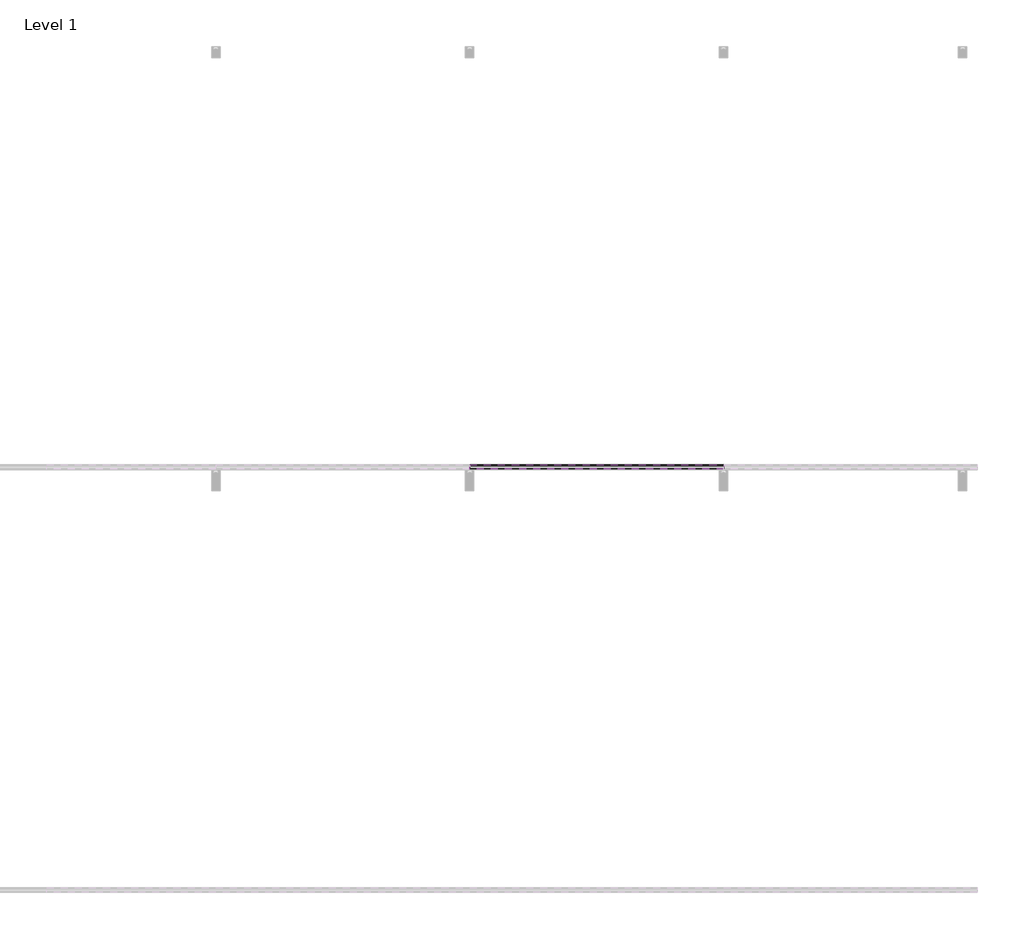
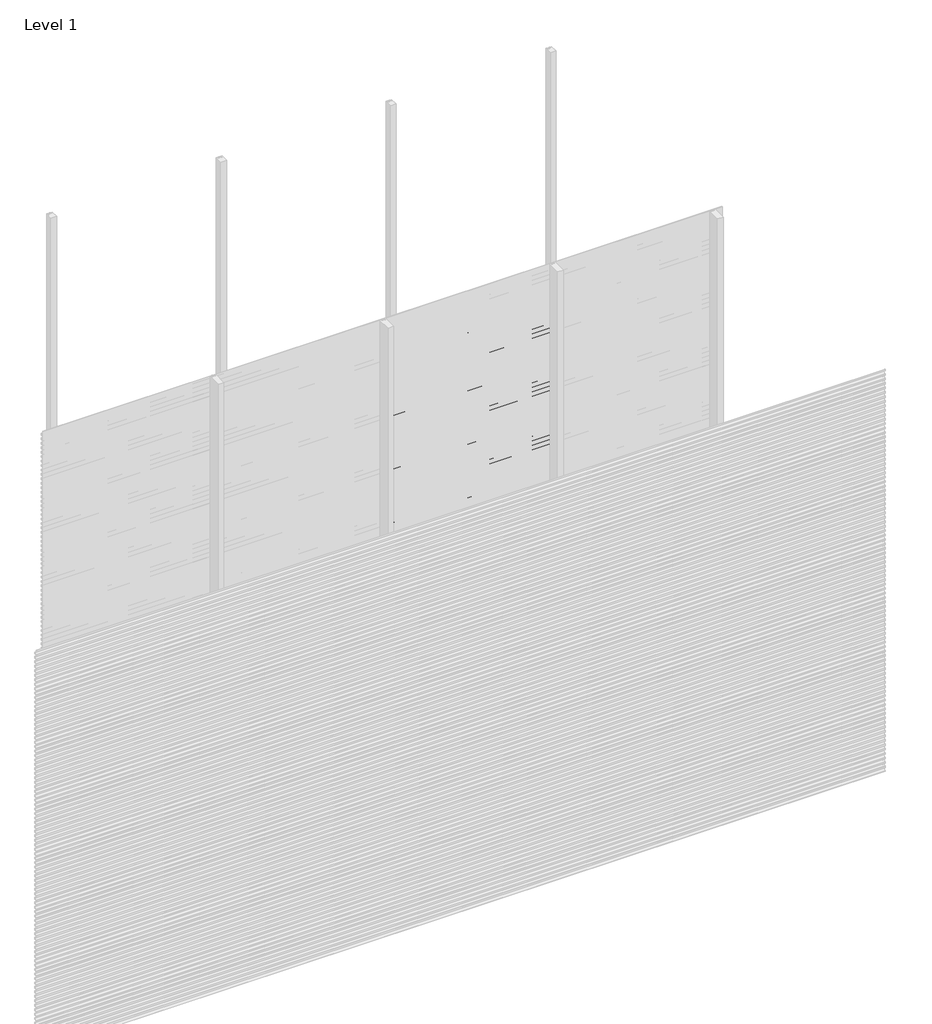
# One storey, part 31 of 77: 72 proxies.
"""IFC4 building model written with IfcOpenShell, lengths in millimetres."""

import ifcopenshell
import ifcopenshell.guid

model = None  # the IFC model being written
_history = None  # IfcOwnerHistory: only IFC2X3 demands one
_inside = {}  # id of a spatial element -> (the spatial element, [elements in it])
_under = {}  # id of a project, library or spatial element -> (it, [spatial elements below it])
_declared = {}  # id of a project -> (the project, [libraries it declares])
_typed = {}  # id of a type object -> (the type object, [elements of that type])
_made_of = {}  # id of a material, layer set ... -> (it, [elements and type objects made of it])


def new_model(schema):
    """Start an empty IFC model of exactly this schema.

    Asked for "IFC4X3", IfcOpenShell would pick the latest addendum, in which some entities
    have other attributes; the version numbers below select the first issue.
    IFC2X3 requires an IfcOwnerHistory on every rooted entity: one is made here for all.
    """
    global model, _history
    if schema == "IFC4X3":
        model = ifcopenshell.file(schema_version=(4, 3, 0, 0))
    else:
        model = ifcopenshell.file(schema=schema)
    _inside.clear()
    _under.clear()
    _declared.clear()
    _typed.clear()
    _made_of.clear()
    _history = None
    if model.schema == "IFC2X3":
        org = make("IfcOrganization", Name="unknown")
        user = make(
            "IfcPersonAndOrganization",
            ThePerson=make("IfcPerson", FamilyName="unknown"),
            TheOrganization=org,
        )
        app = make(
            "IfcApplication",
            ApplicationDeveloper=org,
            Version="unknown",
            ApplicationFullName="unknown",
            ApplicationIdentifier="unknown",
        )
        _history = make(
            "IfcOwnerHistory",
            OwningUser=user,
            OwningApplication=app,
            ChangeAction="ADDED",
            CreationDate=0,
        )
    return model


def make(cls, **values):
    """One entity of the class cls with the attributes given. An attribute that is None is left unset."""
    return model.create_entity(
        cls, **{name: value for name, value in values.items() if value is not None}
    )


def rooted(cls, **values):
    """An entity with a GlobalId (a new one), such as an element, a storey or a relation."""
    return make(cls, GlobalId=ifcopenshell.guid.new(), OwnerHistory=_history, **values)


def si_unit(unit_type, name, prefix=None):
    """IfcSIUnit, for example si_unit("LENGTHUNIT", "METRE", prefix="MILLI")."""
    return make("IfcSIUnit", UnitType=unit_type, Prefix=prefix, Name=name)


def assignment(units):
    """IfcUnitAssignment: the units of a project."""
    return None if units is None else make("IfcUnitAssignment", Units=units)


def point(xyz):
    """IfcCartesianPoint."""
    return None if xyz is None else make("IfcCartesianPoint", Coordinates=xyz)


def direction(xyz):
    """IfcDirection."""
    return None if xyz is None else make("IfcDirection", DirectionRatios=xyz)


def frame(location, z_axis=None, x_axis=None):
    """IfcAxis2Placement3D, a coordinate frame: its origin and axes. An axis left out is left unset."""
    return make(
        "IfcAxis2Placement3D",
        Location=point(location),
        Axis=direction(z_axis),
        RefDirection=direction(x_axis),
    )


def origin():
    """The frame at (0, 0, 0) with its axes left unset."""
    return frame((0.0, 0.0, 0.0))


def place(relative_to, where):
    """IfcLocalPlacement: puts the frame where relative to a parent placement (None: the world)."""
    return make(
        "IfcLocalPlacement", PlacementRelTo=relative_to, RelativePlacement=where
    )


def context(
    kind, dimensions, precision=None, world=None, true_north=None, identifier=None
):
    """IfcGeometricRepresentationContext, for example the 3D "Model" context."""
    return make(
        "IfcGeometricRepresentationContext",
        ContextIdentifier=identifier,
        ContextType=kind,
        CoordinateSpaceDimension=dimensions,
        Precision=precision,
        WorldCoordinateSystem=world,
        TrueNorth=true_north,
    )


def project(units=None, contexts=None):
    """IfcProject with its units and contexts."""
    return rooted(
        "IfcProject",
        Name="project",
        RepresentationContexts=contexts,
        UnitsInContext=assignment(units),
    )


def spatial(cls, under=None, at=None, **own):
    """A site, building, storey or space (cls), placed at a placement, below another one or the project."""
    s = rooted(cls, ObjectPlacement=at, **own)
    if under is not None:
        _under.setdefault(under.id(), (under, []))[1].append(s)
    return s


def polyline(points):
    """IfcPolyline through the points."""
    return make("IfcPolyline", Points=[point(p) for p in points])


def outline(outer, holes=None, kind="AREA"):
    """IfcArbitraryClosedProfileDef: a profile drawn as a closed curve; with holes, ...WithVoids."""
    if holes is None:
        return make("IfcArbitraryClosedProfileDef", ProfileType=kind, OuterCurve=outer)
    return make(
        "IfcArbitraryProfileDefWithVoids",
        ProfileType=kind,
        OuterCurve=outer,
        InnerCurves=holes,
    )


def extrude(swept, where, along, depth):
    """IfcExtrudedAreaSolid: the profile swept, set in the frame where, extruded along a direction by depth."""
    return make(
        "IfcExtrudedAreaSolid",
        SweptArea=swept,
        Position=where,
        ExtrudedDirection=direction(along),
        Depth=depth,
    )


def shape(context_of_items, identifier, shape_type, items):
    """IfcShapeRepresentation: the items that make up one representation, for example the "Body"."""
    return make(
        "IfcShapeRepresentation",
        ContextOfItems=context_of_items,
        RepresentationIdentifier=identifier,
        RepresentationType=shape_type,
        Items=items,
    )


def made_of(thing, what):
    """Note that an element or type object is made of a material, layer set ...; save() writes the relation."""
    if what is not None:
        _made_of.setdefault(what.id(), (what, []))[1].append(thing)
    return thing


def element(
    cls,
    number,
    at=None,
    inside=None,
    cuts=None,
    type_object=None,
    material=None,
    context=None,
    identifier="Body",
    shape_type=None,
    held_by="IfcProductDefinitionShape",
    body=None,
    shapes=None,
    **own,
):
    """One element of the class cls, such as IfcWall. Its Tag is "e" and its number.

    at: its placement. inside: the storey or other place that contains it. cuts: it is an
    opening in that element (IfcRelVoidsElement). A single representation is given by context,
    identifier, shape_type and body (its items); several are given by shapes. held_by: the class
    of the entity that holds the representations. save() writes the other relations.
    """
    e = rooted(cls, Tag="e%d" % number, ObjectPlacement=at, **own)
    if body is not None:
        shapes = [shape(context, identifier, shape_type, body)]
    if shapes is not None:
        e.Representation = make(held_by, Representations=shapes)
    if inside is not None:
        _inside.setdefault(inside.id(), (inside, []))[1].append(e)
    if cuts is not None:
        rooted(
            "IfcRelVoidsElement", RelatingBuildingElement=cuts, RelatedOpeningElement=e
        )
    if type_object is not None:
        _typed.setdefault(type_object.id(), (type_object, []))[1].append(e)
    return made_of(e, material)


def aggregate(whole, parts):
    """IfcRelAggregates: a whole, such as a stair, and the parts it consists of."""
    return rooted("IfcRelAggregates", RelatingObject=whole, RelatedObjects=parts)


def save(model, path):
    """Write the relations noted so far, then the file.

    IfcRelAggregates (storeys below a building ...), IfcRelContainedInSpatialStructure (elements
    in a storey), IfcRelDefinesByType, IfcRelAssociatesMaterial and IfcRelDeclares: one each for
    every whole, place, type object, material and project.
    """
    for whole, parts in _under.values():
        aggregate(whole, parts)
    for where, things in _inside.values():
        rooted(
            "IfcRelContainedInSpatialStructure",
            RelatedElements=things,
            RelatingStructure=where,
        )
    for kind, things in _typed.values():
        rooted("IfcRelDefinesByType", RelatedObjects=things, RelatingType=kind)
    for what, things in _made_of.values():
        rooted("IfcRelAssociatesMaterial", RelatedObjects=things, RelatingMaterial=what)
    for by, libraries in _declared.values():
        rooted("IfcRelDeclares", RelatingContext=by, RelatedDefinitions=libraries)
    model.write(path)


model = new_model("IFC4")

# Units and contexts
model_context = context("Model", 3, world=origin())
ifc_project = project(units=[si_unit("LENGTHUNIT", "METRE", prefix="MILLI")], contexts=[model_context])

# Site, building, storey
site = spatial("IfcSite", under=ifc_project)
building = spatial("IfcBuilding", under=site)
storey = spatial("IfcBuildingStorey", under=building, Name="Level 1", Elevation=0.0)

# Proxies
placement = place(None, origin())
element("IfcBuildingElementProxy", 1, Name="Wall Sweeps", at=placement, inside=storey, context=model_context, shape_type="SweptSolid", body=[
    extrude(outline(polyline([(-35978.6, 2806.0359887), (-35998.0, 2817.2366691), (-35998.0, 2830.5), (-35997.0, 2830.5), (-35997.0, 2817.8191057), (-35977.6, 2806.6185105), (-35977.6, 2793.0185105), (-35978.6, 2794.5953129), (-35978.6, 2800.4032062), (-35995.9773817, 2792.3), (-35996.4, 2793.2063078), (-35978.6, 2801.5065841), (-35978.6, 2806.0359887)])), frame((3600.0, 0.0, 0.0), z_axis=(1.0, 0.0, 0.0), x_axis=(0.0, 1.0, 0.0)), (0.0, 0.0, 1.0), 1200.0),
])
element("IfcBuildingElementProxy", 2, Name="Wall Sweeps", at=placement, inside=storey, context=model_context, shape_type="SweptSolid", body=[
    extrude(outline(polyline([(-35978.6, 2772.7359887), (-35998.0, 2783.9366691), (-35998.0, 2797.2), (-35997.0, 2797.2), (-35997.0, 2784.5191057), (-35977.6, 2773.3185105), (-35977.6, 2759.7185105), (-35978.6, 2761.2953129), (-35978.6, 2767.1032062), (-35995.9773817, 2759.0), (-35996.4, 2759.9063078), (-35978.6, 2768.2065841), (-35978.6, 2772.7359887)])), frame((3600.0, 0.0, 0.0), z_axis=(1.0, 0.0, 0.0), x_axis=(0.0, 1.0, 0.0)), (0.0, 0.0, 1.0), 1200.0),
])
element("IfcBuildingElementProxy", 3, Name="Wall Sweeps", at=placement, inside=storey, context=model_context, shape_type="SweptSolid", body=[
    extrude(outline(polyline([(-35978.6, 2739.4359887), (-35998.0, 2750.6366691), (-35998.0, 2763.9), (-35997.0, 2763.9), (-35997.0, 2751.2191057), (-35977.6, 2740.0185105), (-35977.6, 2726.4185105), (-35978.6, 2727.9953129), (-35978.6, 2733.8032062), (-35995.9773817, 2725.7), (-35996.4, 2726.6063078), (-35978.6, 2734.9065841), (-35978.6, 2739.4359887)])), frame((3600.0, 0.0, 0.0), z_axis=(1.0, 0.0, 0.0), x_axis=(0.0, 1.0, 0.0)), (0.0, 0.0, 1.0), 1200.0),
])
element("IfcBuildingElementProxy", 4, Name="Wall Sweeps", at=placement, inside=storey, context=model_context, shape_type="SweptSolid", body=[
    extrude(outline(polyline([(-35978.6, 2706.1359887), (-35998.0, 2717.3366691), (-35998.0, 2730.6), (-35997.0, 2730.6), (-35997.0, 2717.9191057), (-35977.6, 2706.7185105), (-35977.6, 2693.1185105), (-35978.6, 2694.6953129), (-35978.6, 2700.5032062), (-35995.9773817, 2692.4), (-35996.4, 2693.3063078), (-35978.6, 2701.6065841), (-35978.6, 2706.1359887)])), frame((3600.0, 0.0, 0.0), z_axis=(1.0, 0.0, 0.0), x_axis=(0.0, 1.0, 0.0)), (0.0, 0.0, 1.0), 1200.0),
])
element("IfcBuildingElementProxy", 5, Name="Wall Sweeps", at=placement, inside=storey, context=model_context, shape_type="SweptSolid", body=[
    extrude(outline(polyline([(-35978.6, 2672.8359887), (-35998.0, 2684.0366691), (-35998.0, 2697.3), (-35997.0, 2697.3), (-35997.0, 2684.6191057), (-35977.6, 2673.4185105), (-35977.6, 2659.8185105), (-35978.6, 2661.3953129), (-35978.6, 2667.2032062), (-35995.9773817, 2659.1), (-35996.4, 2660.0063078), (-35978.6, 2668.3065841), (-35978.6, 2672.8359887)])), frame((3600.0, 0.0, 0.0), z_axis=(1.0, 0.0, 0.0), x_axis=(0.0, 1.0, 0.0)), (0.0, 0.0, 1.0), 1200.0),
])
element("IfcBuildingElementProxy", 6, Name="Wall Sweeps", at=placement, inside=storey, context=model_context, shape_type="SweptSolid", body=[
    extrude(outline(polyline([(-35978.6, 2639.5359887), (-35998.0, 2650.7366691), (-35998.0, 2664.0), (-35997.0, 2664.0), (-35997.0, 2651.3191057), (-35977.6, 2640.1185105), (-35977.6, 2626.5185105), (-35978.6, 2628.0953129), (-35978.6, 2633.9032062), (-35995.9773817, 2625.8), (-35996.4, 2626.7063078), (-35978.6, 2635.0065841), (-35978.6, 2639.5359887)])), frame((3600.0, 0.0, 0.0), z_axis=(1.0, 0.0, 0.0), x_axis=(0.0, 1.0, 0.0)), (0.0, 0.0, 1.0), 1200.0),
])
element("IfcBuildingElementProxy", 7, Name="Wall Sweeps", at=placement, inside=storey, context=model_context, shape_type="SweptSolid", body=[
    extrude(outline(polyline([(-35978.6, 2606.2359887), (-35998.0, 2617.4366691), (-35998.0, 2630.7), (-35997.0, 2630.7), (-35997.0, 2618.0191057), (-35977.6, 2606.8185105), (-35977.6, 2593.2185105), (-35978.6, 2594.7953129), (-35978.6, 2600.6032062), (-35995.9773817, 2592.5), (-35996.4, 2593.4063078), (-35978.6, 2601.7065841), (-35978.6, 2606.2359887)])), frame((3600.0, 0.0, 0.0), z_axis=(1.0, 0.0, 0.0), x_axis=(0.0, 1.0, 0.0)), (0.0, 0.0, 1.0), 1200.0),
])
element("IfcBuildingElementProxy", 8, Name="Wall Sweeps", at=placement, inside=storey, context=model_context, shape_type="SweptSolid", body=[
    extrude(outline(polyline([(-35978.6, 2572.9359887), (-35998.0, 2584.1366691), (-35998.0, 2597.4), (-35997.0, 2597.4), (-35997.0, 2584.7191057), (-35977.6, 2573.5185105), (-35977.6, 2559.9185105), (-35978.6, 2561.4953129), (-35978.6, 2567.3032062), (-35995.9773817, 2559.2), (-35996.4, 2560.1063078), (-35978.6, 2568.4065841), (-35978.6, 2572.9359887)])), frame((3600.0, 0.0, 0.0), z_axis=(1.0, 0.0, 0.0), x_axis=(0.0, 1.0, 0.0)), (0.0, 0.0, 1.0), 1200.0),
])
element("IfcBuildingElementProxy", 9, Name="Wall Sweeps", at=placement, inside=storey, context=model_context, shape_type="SweptSolid", body=[
    extrude(outline(polyline([(-35978.6, 2539.6359887), (-35998.0, 2550.8366691), (-35998.0, 2564.1), (-35997.0, 2564.1), (-35997.0, 2551.4191057), (-35977.6, 2540.2185105), (-35977.6, 2526.6185105), (-35978.6, 2528.1953129), (-35978.6, 2534.0032062), (-35995.9773817, 2525.9), (-35996.4, 2526.8063078), (-35978.6, 2535.1065841), (-35978.6, 2539.6359887)])), frame((3600.0, 0.0, 0.0), z_axis=(1.0, 0.0, 0.0), x_axis=(0.0, 1.0, 0.0)), (0.0, 0.0, 1.0), 1200.0),
])
element("IfcBuildingElementProxy", 10, Name="Wall Sweeps", at=placement, inside=storey, context=model_context, shape_type="SweptSolid", body=[
    extrude(outline(polyline([(-35978.6, 2506.3359887), (-35998.0, 2517.5366691), (-35998.0, 2530.8), (-35997.0, 2530.8), (-35997.0, 2518.1191057), (-35977.6, 2506.9185105), (-35977.6, 2493.3185105), (-35978.6, 2494.8953129), (-35978.6, 2500.7032062), (-35995.9773817, 2492.6), (-35996.4, 2493.5063078), (-35978.6, 2501.8065841), (-35978.6, 2506.3359887)])), frame((3600.0, 0.0, 0.0), z_axis=(1.0, 0.0, 0.0), x_axis=(0.0, 1.0, 0.0)), (0.0, 0.0, 1.0), 1200.0),
])
element("IfcBuildingElementProxy", 11, Name="Wall Sweeps", at=placement, inside=storey, context=model_context, shape_type="SweptSolid", body=[
    extrude(outline(polyline([(-35978.6, 2473.0359887), (-35998.0, 2484.2366691), (-35998.0, 2497.5), (-35997.0, 2497.5), (-35997.0, 2484.8191057), (-35977.6, 2473.6185105), (-35977.6, 2460.0185105), (-35978.6, 2461.5953129), (-35978.6, 2467.4032062), (-35995.9773817, 2459.3), (-35996.4, 2460.2063078), (-35978.6, 2468.5065841), (-35978.6, 2473.0359887)])), frame((3600.0, 0.0, 0.0), z_axis=(1.0, 0.0, 0.0), x_axis=(0.0, 1.0, 0.0)), (0.0, 0.0, 1.0), 1200.0),
])
element("IfcBuildingElementProxy", 12, Name="Wall Sweeps", at=placement, inside=storey, context=model_context, shape_type="SweptSolid", body=[
    extrude(outline(polyline([(-35978.6, 2439.7359887), (-35998.0, 2450.9366691), (-35998.0, 2464.2), (-35997.0, 2464.2), (-35997.0, 2451.5191057), (-35977.6, 2440.3185105), (-35977.6, 2426.7185105), (-35978.6, 2428.2953129), (-35978.6, 2434.1032062), (-35995.9773817, 2426.0), (-35996.4, 2426.9063078), (-35978.6, 2435.2065841), (-35978.6, 2439.7359887)])), frame((3600.0, 0.0, 0.0), z_axis=(1.0, 0.0, 0.0), x_axis=(0.0, 1.0, 0.0)), (0.0, 0.0, 1.0), 1200.0),
])
element("IfcBuildingElementProxy", 13, Name="Wall Sweeps", at=placement, inside=storey, context=model_context, shape_type="SweptSolid", body=[
    extrude(outline(polyline([(-35978.6, 2406.4359887), (-35998.0, 2417.6366691), (-35998.0, 2430.9), (-35997.0, 2430.9), (-35997.0, 2418.2191057), (-35977.6, 2407.0185105), (-35977.6, 2393.4185105), (-35978.6, 2394.9953129), (-35978.6, 2400.8032062), (-35995.9773817, 2392.7), (-35996.4, 2393.6063078), (-35978.6, 2401.9065841), (-35978.6, 2406.4359887)])), frame((3600.0, 0.0, 0.0), z_axis=(1.0, 0.0, 0.0), x_axis=(0.0, 1.0, 0.0)), (0.0, 0.0, 1.0), 1200.0),
])
element("IfcBuildingElementProxy", 14, Name="Wall Sweeps", at=placement, inside=storey, context=model_context, shape_type="SweptSolid", body=[
    extrude(outline(polyline([(-35978.6, 2373.1359887), (-35998.0, 2384.3366691), (-35998.0, 2397.6), (-35997.0, 2397.6), (-35997.0, 2384.9191057), (-35977.6, 2373.7185105), (-35977.6, 2360.1185105), (-35978.6, 2361.6953129), (-35978.6, 2367.5032062), (-35995.9773817, 2359.4), (-35996.4, 2360.3063078), (-35978.6, 2368.6065841), (-35978.6, 2373.1359887)])), frame((3600.0, 0.0, 0.0), z_axis=(1.0, 0.0, 0.0), x_axis=(0.0, 1.0, 0.0)), (0.0, 0.0, 1.0), 1200.0),
])
element("IfcBuildingElementProxy", 15, Name="Wall Sweeps", at=placement, inside=storey, context=model_context, shape_type="SweptSolid", body=[
    extrude(outline(polyline([(-35978.6, 2339.8359887), (-35998.0, 2351.0366691), (-35998.0, 2364.3), (-35997.0, 2364.3), (-35997.0, 2351.6191057), (-35977.6, 2340.4185105), (-35977.6, 2326.8185105), (-35978.6, 2328.3953129), (-35978.6, 2334.2032062), (-35995.9773817, 2326.1), (-35996.4, 2327.0063078), (-35978.6, 2335.3065841), (-35978.6, 2339.8359887)])), frame((3600.0, 0.0, 0.0), z_axis=(1.0, 0.0, 0.0), x_axis=(0.0, 1.0, 0.0)), (0.0, 0.0, 1.0), 1200.0),
])
element("IfcBuildingElementProxy", 16, Name="Wall Sweeps", at=placement, inside=storey, context=model_context, shape_type="SweptSolid", body=[
    extrude(outline(polyline([(-35978.6, 2306.5359887), (-35998.0, 2317.7366691), (-35998.0, 2331.0), (-35997.0, 2331.0), (-35997.0, 2318.3191057), (-35977.6, 2307.1185105), (-35977.6, 2293.5185105), (-35978.6, 2295.0953129), (-35978.6, 2300.9032062), (-35995.9773817, 2292.8), (-35996.4, 2293.7063078), (-35978.6, 2302.0065841), (-35978.6, 2306.5359887)])), frame((3600.0, 0.0, 0.0), z_axis=(1.0, 0.0, 0.0), x_axis=(0.0, 1.0, 0.0)), (0.0, 0.0, 1.0), 1200.0),
])
element("IfcBuildingElementProxy", 17, Name="Wall Sweeps", at=placement, inside=storey, context=model_context, shape_type="SweptSolid", body=[
    extrude(outline(polyline([(-35978.6, 2273.2359887), (-35998.0, 2284.4366691), (-35998.0, 2297.7), (-35997.0, 2297.7), (-35997.0, 2285.0191057), (-35977.6, 2273.8185105), (-35977.6, 2260.2185105), (-35978.6, 2261.7953129), (-35978.6, 2267.6032062), (-35995.9773817, 2259.5), (-35996.4, 2260.4063078), (-35978.6, 2268.7065841), (-35978.6, 2273.2359887)])), frame((3600.0, 0.0, 0.0), z_axis=(1.0, 0.0, 0.0), x_axis=(0.0, 1.0, 0.0)), (0.0, 0.0, 1.0), 1200.0),
])
element("IfcBuildingElementProxy", 18, Name="Wall Sweeps", at=placement, inside=storey, context=model_context, shape_type="SweptSolid", body=[
    extrude(outline(polyline([(-35978.6, 2239.9359887), (-35998.0, 2251.1366691), (-35998.0, 2264.4), (-35997.0, 2264.4), (-35997.0, 2251.7191057), (-35977.6, 2240.5185105), (-35977.6, 2226.9185105), (-35978.6, 2228.4953129), (-35978.6, 2234.3032062), (-35995.9773817, 2226.2), (-35996.4, 2227.1063078), (-35978.6, 2235.4065841), (-35978.6, 2239.9359887)])), frame((3600.0, 0.0, 0.0), z_axis=(1.0, 0.0, 0.0), x_axis=(0.0, 1.0, 0.0)), (0.0, 0.0, 1.0), 1200.0),
])
element("IfcBuildingElementProxy", 19, Name="Wall Sweeps", at=placement, inside=storey, context=model_context, shape_type="SweptSolid", body=[
    extrude(outline(polyline([(-35978.6, 2206.6359887), (-35998.0, 2217.8366691), (-35998.0, 2231.1), (-35997.0, 2231.1), (-35997.0, 2218.4191057), (-35977.6, 2207.2185105), (-35977.6, 2193.6185105), (-35978.6, 2195.1953129), (-35978.6, 2201.0032062), (-35995.9773817, 2192.9), (-35996.4, 2193.8063078), (-35978.6, 2202.1065841), (-35978.6, 2206.6359887)])), frame((3600.0, 0.0, 0.0), z_axis=(1.0, 0.0, 0.0), x_axis=(0.0, 1.0, 0.0)), (0.0, 0.0, 1.0), 1200.0),
])
element("IfcBuildingElementProxy", 20, Name="Wall Sweeps", at=placement, inside=storey, context=model_context, shape_type="SweptSolid", body=[
    extrude(outline(polyline([(-35978.6, 2173.3359887), (-35998.0, 2184.5366691), (-35998.0, 2197.8), (-35997.0, 2197.8), (-35997.0, 2185.1191057), (-35977.6, 2173.9185105), (-35977.6, 2160.3185105), (-35978.6, 2161.8953129), (-35978.6, 2167.7032062), (-35995.9773817, 2159.6), (-35996.4, 2160.5063078), (-35978.6, 2168.8065841), (-35978.6, 2173.3359887)])), frame((3600.0, 0.0, 0.0), z_axis=(1.0, 0.0, 0.0), x_axis=(0.0, 1.0, 0.0)), (0.0, 0.0, 1.0), 1200.0),
])
element("IfcBuildingElementProxy", 21, Name="Wall Sweeps", at=placement, inside=storey, context=model_context, shape_type="SweptSolid", body=[
    extrude(outline(polyline([(-35978.6, 2140.0359887), (-35998.0, 2151.2366691), (-35998.0, 2164.5), (-35997.0, 2164.5), (-35997.0, 2151.8191057), (-35977.6, 2140.6185105), (-35977.6, 2127.0185105), (-35978.6, 2128.5953129), (-35978.6, 2134.4032062), (-35995.9773817, 2126.3), (-35996.4, 2127.2063078), (-35978.6, 2135.5065841), (-35978.6, 2140.0359887)])), frame((3600.0, 0.0, 0.0), z_axis=(1.0, 0.0, 0.0), x_axis=(0.0, 1.0, 0.0)), (0.0, 0.0, 1.0), 1200.0),
])
element("IfcBuildingElementProxy", 22, Name="Wall Sweeps", at=placement, inside=storey, context=model_context, shape_type="SweptSolid", body=[
    extrude(outline(polyline([(-35978.6, 2106.7359887), (-35998.0, 2117.9366691), (-35998.0, 2131.2), (-35997.0, 2131.2), (-35997.0, 2118.5191057), (-35977.6, 2107.3185105), (-35977.6, 2093.7185105), (-35978.6, 2095.2953129), (-35978.6, 2101.1032062), (-35995.9773817, 2093.0), (-35996.4, 2093.9063078), (-35978.6, 2102.2065841), (-35978.6, 2106.7359887)])), frame((3600.0, 0.0, 0.0), z_axis=(1.0, 0.0, 0.0), x_axis=(0.0, 1.0, 0.0)), (0.0, 0.0, 1.0), 1200.0),
])
element("IfcBuildingElementProxy", 23, Name="Wall Sweeps", at=placement, inside=storey, context=model_context, shape_type="SweptSolid", body=[
    extrude(outline(polyline([(-35978.6, 2073.4359887), (-35998.0, 2084.6366691), (-35998.0, 2097.9), (-35997.0, 2097.9), (-35997.0, 2085.2191057), (-35977.6, 2074.0185105), (-35977.6, 2060.4185105), (-35978.6, 2061.9953129), (-35978.6, 2067.8032062), (-35995.9773817, 2059.7), (-35996.4, 2060.6063078), (-35978.6, 2068.9065841), (-35978.6, 2073.4359887)])), frame((3600.0, 0.0, 0.0), z_axis=(1.0, 0.0, 0.0), x_axis=(0.0, 1.0, 0.0)), (0.0, 0.0, 1.0), 1200.0),
])
element("IfcBuildingElementProxy", 24, Name="Wall Sweeps", at=placement, inside=storey, context=model_context, shape_type="SweptSolid", body=[
    extrude(outline(polyline([(-35978.6, 2040.1359887), (-35998.0, 2051.3366691), (-35998.0, 2064.6), (-35997.0, 2064.6), (-35997.0, 2051.9191057), (-35977.6, 2040.7185105), (-35977.6, 2027.1185105), (-35978.6, 2028.6953129), (-35978.6, 2034.5032062), (-35995.9773817, 2026.4), (-35996.4, 2027.3063078), (-35978.6, 2035.6065841), (-35978.6, 2040.1359887)])), frame((3600.0, 0.0, 0.0), z_axis=(1.0, 0.0, 0.0), x_axis=(0.0, 1.0, 0.0)), (0.0, 0.0, 1.0), 1200.0),
])
element("IfcBuildingElementProxy", 25, Name="Wall Sweeps", at=placement, inside=storey, context=model_context, shape_type="SweptSolid", body=[
    extrude(outline(polyline([(-35978.6, 2006.8359887), (-35998.0, 2018.0366691), (-35998.0, 2031.3), (-35997.0, 2031.3), (-35997.0, 2018.6191057), (-35977.6, 2007.4185105), (-35977.6, 1993.8185105), (-35978.6, 1995.3953129), (-35978.6, 2001.2032062), (-35995.9773817, 1993.1), (-35996.4, 1994.0063078), (-35978.6, 2002.3065841), (-35978.6, 2006.8359887)])), frame((3600.0, 0.0, 0.0), z_axis=(1.0, 0.0, 0.0), x_axis=(0.0, 1.0, 0.0)), (0.0, 0.0, 1.0), 1200.0),
])
element("IfcBuildingElementProxy", 26, Name="Wall Sweeps", at=placement, inside=storey, context=model_context, shape_type="SweptSolid", body=[
    extrude(outline(polyline([(-35978.6, 1973.5359887), (-35998.0, 1984.7366691), (-35998.0, 1998.0), (-35997.0, 1998.0), (-35997.0, 1985.3191057), (-35977.6, 1974.1185105), (-35977.6, 1960.5185105), (-35978.6, 1962.0953129), (-35978.6, 1967.9032062), (-35995.9773817, 1959.8), (-35996.4, 1960.7063078), (-35978.6, 1969.0065841), (-35978.6, 1973.5359887)])), frame((3600.0, 0.0, 0.0), z_axis=(1.0, 0.0, 0.0), x_axis=(0.0, 1.0, 0.0)), (0.0, 0.0, 1.0), 1200.0),
])
element("IfcBuildingElementProxy", 27, Name="Wall Sweeps", at=placement, inside=storey, context=model_context, shape_type="SweptSolid", body=[
    extrude(outline(polyline([(-35978.6, 1940.2359887), (-35998.0, 1951.4366691), (-35998.0, 1964.7), (-35997.0, 1964.7), (-35997.0, 1952.0191057), (-35977.6, 1940.8185105), (-35977.6, 1927.2185105), (-35978.6, 1928.7953129), (-35978.6, 1934.6032062), (-35995.9773817, 1926.5), (-35996.4, 1927.4063078), (-35978.6, 1935.7065841), (-35978.6, 1940.2359887)])), frame((3600.0, 0.0, 0.0), z_axis=(1.0, 0.0, 0.0), x_axis=(0.0, 1.0, 0.0)), (0.0, 0.0, 1.0), 1200.0),
])
element("IfcBuildingElementProxy", 28, Name="Wall Sweeps", at=placement, inside=storey, context=model_context, shape_type="SweptSolid", body=[
    extrude(outline(polyline([(-35978.6, 1906.9359887), (-35998.0, 1918.1366691), (-35998.0, 1931.4), (-35997.0, 1931.4), (-35997.0, 1918.7191057), (-35977.6, 1907.5185105), (-35977.6, 1893.9185105), (-35978.6, 1895.4953129), (-35978.6, 1901.3032062), (-35995.9773817, 1893.2), (-35996.4, 1894.1063078), (-35978.6, 1902.4065841), (-35978.6, 1906.9359887)])), frame((3600.0, 0.0, 0.0), z_axis=(1.0, 0.0, 0.0), x_axis=(0.0, 1.0, 0.0)), (0.0, 0.0, 1.0), 1200.0),
])
element("IfcBuildingElementProxy", 29, Name="Wall Sweeps", at=placement, inside=storey, context=model_context, shape_type="SweptSolid", body=[
    extrude(outline(polyline([(-35978.6, 1873.6359887), (-35998.0, 1884.8366691), (-35998.0, 1898.1), (-35997.0, 1898.1), (-35997.0, 1885.4191057), (-35977.6, 1874.2185105), (-35977.6, 1860.6185105), (-35978.6, 1862.1953129), (-35978.6, 1868.0032062), (-35995.9773817, 1859.9), (-35996.4, 1860.8063078), (-35978.6, 1869.1065841), (-35978.6, 1873.6359887)])), frame((3600.0, 0.0, 0.0), z_axis=(1.0, 0.0, 0.0), x_axis=(0.0, 1.0, 0.0)), (0.0, 0.0, 1.0), 1200.0),
])
element("IfcBuildingElementProxy", 30, Name="Wall Sweeps", at=placement, inside=storey, context=model_context, shape_type="SweptSolid", body=[
    extrude(outline(polyline([(-35978.6, 1840.3359887), (-35998.0, 1851.5366691), (-35998.0, 1864.8), (-35997.0, 1864.8), (-35997.0, 1852.1191057), (-35977.6, 1840.9185105), (-35977.6, 1827.3185105), (-35978.6, 1828.8953129), (-35978.6, 1834.7032062), (-35995.9773817, 1826.6), (-35996.4, 1827.5063078), (-35978.6, 1835.8065841), (-35978.6, 1840.3359887)])), frame((3600.0, 0.0, 0.0), z_axis=(1.0, 0.0, 0.0), x_axis=(0.0, 1.0, 0.0)), (0.0, 0.0, 1.0), 1200.0),
])
element("IfcBuildingElementProxy", 31, Name="Wall Sweeps", at=placement, inside=storey, context=model_context, shape_type="SweptSolid", body=[
    extrude(outline(polyline([(-35978.6, 1807.0359887), (-35998.0, 1818.2366691), (-35998.0, 1831.5), (-35997.0, 1831.5), (-35997.0, 1818.8191057), (-35977.6, 1807.6185105), (-35977.6, 1794.0185105), (-35978.6, 1795.5953129), (-35978.6, 1801.4032062), (-35995.9773817, 1793.3), (-35996.4, 1794.2063078), (-35978.6, 1802.5065841), (-35978.6, 1807.0359887)])), frame((3600.0, 0.0, 0.0), z_axis=(1.0, 0.0, 0.0), x_axis=(0.0, 1.0, 0.0)), (0.0, 0.0, 1.0), 1200.0),
])
element("IfcBuildingElementProxy", 32, Name="Wall Sweeps", at=placement, inside=storey, context=model_context, shape_type="SweptSolid", body=[
    extrude(outline(polyline([(-35978.6, 1773.7359887), (-35998.0, 1784.9366691), (-35998.0, 1798.2), (-35997.0, 1798.2), (-35997.0, 1785.5191057), (-35977.6, 1774.3185105), (-35977.6, 1760.7185105), (-35978.6, 1762.2953129), (-35978.6, 1768.1032062), (-35995.9773817, 1760.0), (-35996.4, 1760.9063078), (-35978.6, 1769.2065841), (-35978.6, 1773.7359887)])), frame((3600.0, 0.0, 0.0), z_axis=(1.0, 0.0, 0.0), x_axis=(0.0, 1.0, 0.0)), (0.0, 0.0, 1.0), 1200.0),
])
element("IfcBuildingElementProxy", 33, Name="Wall Sweeps", at=placement, inside=storey, context=model_context, shape_type="SweptSolid", body=[
    extrude(outline(polyline([(-35978.6, 1740.4359887), (-35998.0, 1751.6366691), (-35998.0, 1764.9), (-35997.0, 1764.9), (-35997.0, 1752.2191057), (-35977.6, 1741.0185105), (-35977.6, 1727.4185105), (-35978.6, 1728.9953129), (-35978.6, 1734.8032062), (-35995.9773817, 1726.7), (-35996.4, 1727.6063078), (-35978.6, 1735.9065841), (-35978.6, 1740.4359887)])), frame((3600.0, 0.0, 0.0), z_axis=(1.0, 0.0, 0.0), x_axis=(0.0, 1.0, 0.0)), (0.0, 0.0, 1.0), 1200.0),
])
element("IfcBuildingElementProxy", 34, Name="Wall Sweeps", at=placement, inside=storey, context=model_context, shape_type="SweptSolid", body=[
    extrude(outline(polyline([(-35978.6, 1707.1359887), (-35998.0, 1718.3366691), (-35998.0, 1731.6), (-35997.0, 1731.6), (-35997.0, 1718.9191057), (-35977.6, 1707.7185105), (-35977.6, 1694.1185105), (-35978.6, 1695.6953129), (-35978.6, 1701.5032062), (-35995.9773817, 1693.4), (-35996.4, 1694.3063078), (-35978.6, 1702.6065841), (-35978.6, 1707.1359887)])), frame((3600.0, 0.0, 0.0), z_axis=(1.0, 0.0, 0.0), x_axis=(0.0, 1.0, 0.0)), (0.0, 0.0, 1.0), 1200.0),
])
element("IfcBuildingElementProxy", 35, Name="Wall Sweeps", at=placement, inside=storey, context=model_context, shape_type="SweptSolid", body=[
    extrude(outline(polyline([(-35978.6, 1673.8359887), (-35998.0, 1685.0366691), (-35998.0, 1698.3), (-35997.0, 1698.3), (-35997.0, 1685.6191057), (-35977.6, 1674.4185105), (-35977.6, 1660.8185105), (-35978.6, 1662.3953129), (-35978.6, 1668.2032062), (-35995.9773817, 1660.1), (-35996.4, 1661.0063078), (-35978.6, 1669.3065841), (-35978.6, 1673.8359887)])), frame((3600.0, 0.0, 0.0), z_axis=(1.0, 0.0, 0.0), x_axis=(0.0, 1.0, 0.0)), (0.0, 0.0, 1.0), 1200.0),
])
element("IfcBuildingElementProxy", 36, Name="Wall Sweeps", at=placement, inside=storey, context=model_context, shape_type="SweptSolid", body=[
    extrude(outline(polyline([(-35978.6, 1640.5359887), (-35998.0, 1651.7366691), (-35998.0, 1665.0), (-35997.0, 1665.0), (-35997.0, 1652.3191057), (-35977.6, 1641.1185105), (-35977.6, 1627.5185105), (-35978.6, 1629.0953129), (-35978.6, 1634.9032062), (-35995.9773817, 1626.8), (-35996.4, 1627.7063078), (-35978.6, 1636.0065841), (-35978.6, 1640.5359887)])), frame((3600.0, 0.0, 0.0), z_axis=(1.0, 0.0, 0.0), x_axis=(0.0, 1.0, 0.0)), (0.0, 0.0, 1.0), 1200.0),
])
element("IfcBuildingElementProxy", 37, Name="Wall Sweeps", at=placement, inside=storey, context=model_context, shape_type="SweptSolid", body=[
    extrude(outline(polyline([(-35978.6, 1607.2359887), (-35998.0, 1618.4366691), (-35998.0, 1631.7), (-35997.0, 1631.7), (-35997.0, 1619.0191057), (-35977.6, 1607.8185105), (-35977.6, 1594.2185105), (-35978.6, 1595.7953129), (-35978.6, 1601.6032062), (-35995.9773817, 1593.5), (-35996.4, 1594.4063078), (-35978.6, 1602.7065841), (-35978.6, 1607.2359887)])), frame((3600.0, 0.0, 0.0), z_axis=(1.0, 0.0, 0.0), x_axis=(0.0, 1.0, 0.0)), (0.0, 0.0, 1.0), 1200.0),
])
element("IfcBuildingElementProxy", 38, Name="Wall Sweeps", at=placement, inside=storey, context=model_context, shape_type="SweptSolid", body=[
    extrude(outline(polyline([(-35978.6, 1573.9359887), (-35998.0, 1585.1366691), (-35998.0, 1598.4), (-35997.0, 1598.4), (-35997.0, 1585.7191057), (-35977.6, 1574.5185105), (-35977.6, 1560.9185105), (-35978.6, 1562.4953129), (-35978.6, 1568.3032062), (-35995.9773817, 1560.2), (-35996.4, 1561.1063078), (-35978.6, 1569.4065841), (-35978.6, 1573.9359887)])), frame((3600.0, 0.0, 0.0), z_axis=(1.0, 0.0, 0.0), x_axis=(0.0, 1.0, 0.0)), (0.0, 0.0, 1.0), 1200.0),
])
element("IfcBuildingElementProxy", 39, Name="Wall Sweeps", at=placement, inside=storey, context=model_context, shape_type="SweptSolid", body=[
    extrude(outline(polyline([(-35978.6, 1540.6359887), (-35998.0, 1551.8366691), (-35998.0, 1565.1), (-35997.0, 1565.1), (-35997.0, 1552.4191057), (-35977.6, 1541.2185105), (-35977.6, 1527.6185105), (-35978.6, 1529.1953129), (-35978.6, 1535.0032062), (-35995.9773817, 1526.9), (-35996.4, 1527.8063078), (-35978.6, 1536.1065841), (-35978.6, 1540.6359887)])), frame((3600.0, 0.0, 0.0), z_axis=(1.0, 0.0, 0.0), x_axis=(0.0, 1.0, 0.0)), (0.0, 0.0, 1.0), 1200.0),
])
element("IfcBuildingElementProxy", 40, Name="Wall Sweeps", at=placement, inside=storey, context=model_context, shape_type="SweptSolid", body=[
    extrude(outline(polyline([(-35978.6, 1507.3359887), (-35998.0, 1518.5366691), (-35998.0, 1531.8), (-35997.0, 1531.8), (-35997.0, 1519.1191057), (-35977.6, 1507.9185105), (-35977.6, 1494.3185105), (-35978.6, 1495.8953129), (-35978.6, 1501.7032062), (-35995.9773817, 1493.6), (-35996.4, 1494.5063078), (-35978.6, 1502.8065841), (-35978.6, 1507.3359887)])), frame((3600.0, 0.0, 0.0), z_axis=(1.0, 0.0, 0.0), x_axis=(0.0, 1.0, 0.0)), (0.0, 0.0, 1.0), 1200.0),
])
element("IfcBuildingElementProxy", 41, Name="Wall Sweeps", at=placement, inside=storey, context=model_context, shape_type="SweptSolid", body=[
    extrude(outline(polyline([(-35978.6, 1474.0359887), (-35998.0, 1485.2366691), (-35998.0, 1498.5), (-35997.0, 1498.5), (-35997.0, 1485.8191057), (-35977.6, 1474.6185105), (-35977.6, 1461.0185105), (-35978.6, 1462.5953129), (-35978.6, 1468.4032062), (-35995.9773817, 1460.3), (-35996.4, 1461.2063078), (-35978.6, 1469.5065841), (-35978.6, 1474.0359887)])), frame((3600.0, 0.0, 0.0), z_axis=(1.0, 0.0, 0.0), x_axis=(0.0, 1.0, 0.0)), (0.0, 0.0, 1.0), 1200.0),
])
element("IfcBuildingElementProxy", 42, Name="Wall Sweeps", at=placement, inside=storey, context=model_context, shape_type="SweptSolid", body=[
    extrude(outline(polyline([(-35978.6, 1440.7359887), (-35998.0, 1451.9366691), (-35998.0, 1465.2), (-35997.0, 1465.2), (-35997.0, 1452.5191057), (-35977.6, 1441.3185105), (-35977.6, 1427.7185105), (-35978.6, 1429.2953129), (-35978.6, 1435.1032062), (-35995.9773817, 1427.0), (-35996.4, 1427.9063078), (-35978.6, 1436.2065841), (-35978.6, 1440.7359887)])), frame((3600.0, 0.0, 0.0), z_axis=(1.0, 0.0, 0.0), x_axis=(0.0, 1.0, 0.0)), (0.0, 0.0, 1.0), 1200.0),
])
element("IfcBuildingElementProxy", 43, Name="Wall Sweeps", at=placement, inside=storey, context=model_context, shape_type="SweptSolid", body=[
    extrude(outline(polyline([(-35978.6, 1407.4359887), (-35998.0, 1418.6366691), (-35998.0, 1431.9), (-35997.0, 1431.9), (-35997.0, 1419.2191057), (-35977.6, 1408.0185105), (-35977.6, 1394.4185105), (-35978.6, 1395.9953129), (-35978.6, 1401.8032062), (-35995.9773817, 1393.7), (-35996.4, 1394.6063078), (-35978.6, 1402.9065841), (-35978.6, 1407.4359887)])), frame((3600.0, 0.0, 0.0), z_axis=(1.0, 0.0, 0.0), x_axis=(0.0, 1.0, 0.0)), (0.0, 0.0, 1.0), 1200.0),
])
element("IfcBuildingElementProxy", 44, Name="Wall Sweeps", at=placement, inside=storey, context=model_context, shape_type="SweptSolid", body=[
    extrude(outline(polyline([(-35978.6, 1374.1359887), (-35998.0, 1385.3366691), (-35998.0, 1398.6), (-35997.0, 1398.6), (-35997.0, 1385.9191057), (-35977.6, 1374.7185105), (-35977.6, 1361.1185105), (-35978.6, 1362.6953129), (-35978.6, 1368.5032062), (-35995.9773817, 1360.4), (-35996.4, 1361.3063078), (-35978.6, 1369.6065841), (-35978.6, 1374.1359887)])), frame((3600.0, 0.0, 0.0), z_axis=(1.0, 0.0, 0.0), x_axis=(0.0, 1.0, 0.0)), (0.0, 0.0, 1.0), 1200.0),
])
element("IfcBuildingElementProxy", 45, Name="Wall Sweeps", at=placement, inside=storey, context=model_context, shape_type="SweptSolid", body=[
    extrude(outline(polyline([(-35978.6, 1340.8359887), (-35998.0, 1352.0366691), (-35998.0, 1365.3), (-35997.0, 1365.3), (-35997.0, 1352.6191057), (-35977.6, 1341.4185105), (-35977.6, 1327.8185105), (-35978.6, 1329.3953129), (-35978.6, 1335.2032062), (-35995.9773817, 1327.1), (-35996.4, 1328.0063078), (-35978.6, 1336.3065841), (-35978.6, 1340.8359887)])), frame((3600.0, 0.0, 0.0), z_axis=(1.0, 0.0, 0.0), x_axis=(0.0, 1.0, 0.0)), (0.0, 0.0, 1.0), 1200.0),
])
element("IfcBuildingElementProxy", 46, Name="Wall Sweeps", at=placement, inside=storey, context=model_context, shape_type="SweptSolid", body=[
    extrude(outline(polyline([(-35978.6, 1307.5359887), (-35998.0, 1318.7366691), (-35998.0, 1332.0), (-35997.0, 1332.0), (-35997.0, 1319.3191057), (-35977.6, 1308.1185105), (-35977.6, 1294.5185105), (-35978.6, 1296.0953129), (-35978.6, 1301.9032062), (-35995.9773817, 1293.8), (-35996.4, 1294.7063078), (-35978.6, 1303.0065841), (-35978.6, 1307.5359887)])), frame((3600.0, 0.0, 0.0), z_axis=(1.0, 0.0, 0.0), x_axis=(0.0, 1.0, 0.0)), (0.0, 0.0, 1.0), 1200.0),
])
element("IfcBuildingElementProxy", 47, Name="Wall Sweeps", at=placement, inside=storey, context=model_context, shape_type="SweptSolid", body=[
    extrude(outline(polyline([(-35978.6, 1274.2359887), (-35998.0, 1285.4366691), (-35998.0, 1298.7), (-35997.0, 1298.7), (-35997.0, 1286.0191057), (-35977.6, 1274.8185105), (-35977.6, 1261.2185105), (-35978.6, 1262.7953129), (-35978.6, 1268.6032062), (-35995.9773817, 1260.5), (-35996.4, 1261.4063078), (-35978.6, 1269.7065841), (-35978.6, 1274.2359887)])), frame((3600.0, 0.0, 0.0), z_axis=(1.0, 0.0, 0.0), x_axis=(0.0, 1.0, 0.0)), (0.0, 0.0, 1.0), 1200.0),
])
element("IfcBuildingElementProxy", 48, Name="Wall Sweeps", at=placement, inside=storey, context=model_context, shape_type="SweptSolid", body=[
    extrude(outline(polyline([(-35978.6, 1240.9359887), (-35998.0, 1252.1366691), (-35998.0, 1265.4), (-35997.0, 1265.4), (-35997.0, 1252.7191057), (-35977.6, 1241.5185105), (-35977.6, 1227.9185105), (-35978.6, 1229.4953129), (-35978.6, 1235.3032062), (-35995.9773817, 1227.2), (-35996.4, 1228.1063078), (-35978.6, 1236.4065841), (-35978.6, 1240.9359887)])), frame((3600.0, 0.0, 0.0), z_axis=(1.0, 0.0, 0.0), x_axis=(0.0, 1.0, 0.0)), (0.0, 0.0, 1.0), 1200.0),
])
element("IfcBuildingElementProxy", 49, Name="Wall Sweeps", at=placement, inside=storey, context=model_context, shape_type="SweptSolid", body=[
    extrude(outline(polyline([(-35978.6, 1207.6359887), (-35998.0, 1218.8366691), (-35998.0, 1232.1), (-35997.0, 1232.1), (-35997.0, 1219.4191057), (-35977.6, 1208.2185105), (-35977.6, 1194.6185105), (-35978.6, 1196.1953129), (-35978.6, 1202.0032062), (-35995.9773817, 1193.9), (-35996.4, 1194.8063078), (-35978.6, 1203.1065841), (-35978.6, 1207.6359887)])), frame((3600.0, 0.0, 0.0), z_axis=(1.0, 0.0, 0.0), x_axis=(0.0, 1.0, 0.0)), (0.0, 0.0, 1.0), 1200.0),
])
element("IfcBuildingElementProxy", 50, Name="Wall Sweeps", at=placement, inside=storey, context=model_context, shape_type="SweptSolid", body=[
    extrude(outline(polyline([(-35978.6, 1174.3359887), (-35998.0, 1185.5366691), (-35998.0, 1198.8), (-35997.0, 1198.8), (-35997.0, 1186.1191057), (-35977.6, 1174.9185105), (-35977.6, 1161.3185105), (-35978.6, 1162.8953129), (-35978.6, 1168.7032062), (-35995.9773817, 1160.6), (-35996.4, 1161.5063078), (-35978.6, 1169.8065841), (-35978.6, 1174.3359887)])), frame((3600.0, 0.0, 0.0), z_axis=(1.0, 0.0, 0.0), x_axis=(0.0, 1.0, 0.0)), (0.0, 0.0, 1.0), 1200.0),
])
element("IfcBuildingElementProxy", 51, Name="Wall Sweeps", at=placement, inside=storey, context=model_context, shape_type="SweptSolid", body=[
    extrude(outline(polyline([(-35978.6, 1141.0359887), (-35998.0, 1152.2366691), (-35998.0, 1165.5), (-35997.0, 1165.5), (-35997.0, 1152.8191057), (-35977.6, 1141.6185105), (-35977.6, 1128.0185105), (-35978.6, 1129.5953129), (-35978.6, 1135.4032062), (-35995.9773817, 1127.3), (-35996.4, 1128.2063078), (-35978.6, 1136.5065841), (-35978.6, 1141.0359887)])), frame((3600.0, 0.0, 0.0), z_axis=(1.0, 0.0, 0.0), x_axis=(0.0, 1.0, 0.0)), (0.0, 0.0, 1.0), 1200.0),
])
element("IfcBuildingElementProxy", 52, Name="Wall Sweeps", at=placement, inside=storey, context=model_context, shape_type="SweptSolid", body=[
    extrude(outline(polyline([(-35978.6, 1107.7359887), (-35998.0, 1118.9366691), (-35998.0, 1132.2), (-35997.0, 1132.2), (-35997.0, 1119.5191057), (-35977.6, 1108.3185105), (-35977.6, 1094.7185105), (-35978.6, 1096.2953129), (-35978.6, 1102.1032062), (-35995.9773817, 1094.0), (-35996.4, 1094.9063078), (-35978.6, 1103.2065841), (-35978.6, 1107.7359887)])), frame((3600.0, 0.0, 0.0), z_axis=(1.0, 0.0, 0.0), x_axis=(0.0, 1.0, 0.0)), (0.0, 0.0, 1.0), 1200.0),
])
element("IfcBuildingElementProxy", 53, Name="Wall Sweeps", at=placement, inside=storey, context=model_context, shape_type="SweptSolid", body=[
    extrude(outline(polyline([(-35978.6, 1074.4359887), (-35998.0, 1085.6366691), (-35998.0, 1098.9), (-35997.0, 1098.9), (-35997.0, 1086.2191057), (-35977.6, 1075.0185105), (-35977.6, 1061.4185105), (-35978.6, 1062.9953129), (-35978.6, 1068.8032062), (-35995.9773817, 1060.7), (-35996.4, 1061.6063078), (-35978.6, 1069.9065841), (-35978.6, 1074.4359887)])), frame((3600.0, 0.0, 0.0), z_axis=(1.0, 0.0, 0.0), x_axis=(0.0, 1.0, 0.0)), (0.0, 0.0, 1.0), 1200.0),
])
element("IfcBuildingElementProxy", 54, Name="Wall Sweeps", at=placement, inside=storey, context=model_context, shape_type="SweptSolid", body=[
    extrude(outline(polyline([(-35978.6, 1041.1359887), (-35998.0, 1052.3366691), (-35998.0, 1065.6), (-35997.0, 1065.6), (-35997.0, 1052.9191057), (-35977.6, 1041.7185105), (-35977.6, 1028.1185105), (-35978.6, 1029.6953129), (-35978.6, 1035.5032062), (-35995.9773817, 1027.4), (-35996.4, 1028.3063078), (-35978.6, 1036.6065841), (-35978.6, 1041.1359887)])), frame((3600.0, 0.0, 0.0), z_axis=(1.0, 0.0, 0.0), x_axis=(0.0, 1.0, 0.0)), (0.0, 0.0, 1.0), 1200.0),
])
element("IfcBuildingElementProxy", 55, Name="Wall Sweeps", at=placement, inside=storey, context=model_context, shape_type="SweptSolid", body=[
    extrude(outline(polyline([(-35978.6, 1007.8359887), (-35998.0, 1019.0366691), (-35998.0, 1032.3), (-35997.0, 1032.3), (-35997.0, 1019.6191057), (-35977.6, 1008.4185105), (-35977.6, 994.8185105), (-35978.6, 996.3953129), (-35978.6, 1002.2032062), (-35995.9773817, 994.1), (-35996.4, 995.0063078), (-35978.6, 1003.3065841), (-35978.6, 1007.8359887)])), frame((3600.0, 0.0, 0.0), z_axis=(1.0, 0.0, 0.0), x_axis=(0.0, 1.0, 0.0)), (0.0, 0.0, 1.0), 1200.0),
])
element("IfcBuildingElementProxy", 56, Name="Wall Sweeps", at=placement, inside=storey, context=model_context, shape_type="SweptSolid", body=[
    extrude(outline(polyline([(-35978.6, 974.5359887), (-35998.0, 985.7366691), (-35998.0, 999.0), (-35997.0, 999.0), (-35997.0, 986.3191057), (-35977.6, 975.1185105), (-35977.6, 961.5185105), (-35978.6, 963.0953129), (-35978.6, 968.9032062), (-35995.9773817, 960.8), (-35996.4, 961.7063078), (-35978.6, 970.0065841), (-35978.6, 974.5359887)])), frame((3600.0, 0.0, 0.0), z_axis=(1.0, 0.0, 0.0), x_axis=(0.0, 1.0, 0.0)), (0.0, 0.0, 1.0), 1200.0),
])
element("IfcBuildingElementProxy", 57, Name="Wall Sweeps", at=placement, inside=storey, context=model_context, shape_type="SweptSolid", body=[
    extrude(outline(polyline([(-35978.6, 941.2359887), (-35998.0, 952.4366691), (-35998.0, 965.7), (-35997.0, 965.7), (-35997.0, 953.0191057), (-35977.6, 941.8185105), (-35977.6, 928.2185105), (-35978.6, 929.7953129), (-35978.6, 935.6032062), (-35995.9773817, 927.5), (-35996.4, 928.4063078), (-35978.6, 936.7065841), (-35978.6, 941.2359887)])), frame((3600.0, 0.0, 0.0), z_axis=(1.0, 0.0, 0.0), x_axis=(0.0, 1.0, 0.0)), (0.0, 0.0, 1.0), 1200.0),
])
element("IfcBuildingElementProxy", 58, Name="Wall Sweeps", at=placement, inside=storey, context=model_context, shape_type="SweptSolid", body=[
    extrude(outline(polyline([(-35978.6, 907.9359887), (-35998.0, 919.1366691), (-35998.0, 932.4), (-35997.0, 932.4), (-35997.0, 919.7191057), (-35977.6, 908.5185105), (-35977.6, 894.9185105), (-35978.6, 896.4953129), (-35978.6, 902.3032062), (-35995.9773817, 894.2), (-35996.4, 895.1063078), (-35978.6, 903.4065841), (-35978.6, 907.9359887)])), frame((3600.0, 0.0, 0.0), z_axis=(1.0, 0.0, 0.0), x_axis=(0.0, 1.0, 0.0)), (0.0, 0.0, 1.0), 1200.0),
])
element("IfcBuildingElementProxy", 59, Name="Wall Sweeps", at=placement, inside=storey, context=model_context, shape_type="SweptSolid", body=[
    extrude(outline(polyline([(-35978.6, 874.6359887), (-35998.0, 885.8366691), (-35998.0, 899.1), (-35997.0, 899.1), (-35997.0, 886.4191057), (-35977.6, 875.2185105), (-35977.6, 861.6185105), (-35978.6, 863.1953129), (-35978.6, 869.0032062), (-35995.9773817, 860.9), (-35996.4, 861.8063078), (-35978.6, 870.1065841), (-35978.6, 874.6359887)])), frame((3600.0, 0.0, 0.0), z_axis=(1.0, 0.0, 0.0), x_axis=(0.0, 1.0, 0.0)), (0.0, 0.0, 1.0), 1200.0),
])
element("IfcBuildingElementProxy", 60, Name="Wall Sweeps", at=placement, inside=storey, context=model_context, shape_type="SweptSolid", body=[
    extrude(outline(polyline([(-35978.6, 841.3359887), (-35998.0, 852.5366691), (-35998.0, 865.8), (-35997.0, 865.8), (-35997.0, 853.1191057), (-35977.6, 841.9185105), (-35977.6, 828.3185105), (-35978.6, 829.8953129), (-35978.6, 835.7032062), (-35995.9773817, 827.6), (-35996.4, 828.5063078), (-35978.6, 836.8065841), (-35978.6, 841.3359887)])), frame((3600.0, 0.0, 0.0), z_axis=(1.0, 0.0, 0.0), x_axis=(0.0, 1.0, 0.0)), (0.0, 0.0, 1.0), 1200.0),
])
element("IfcBuildingElementProxy", 61, Name="Wall Sweeps", at=placement, inside=storey, context=model_context, shape_type="SweptSolid", body=[
    extrude(outline(polyline([(-35978.6, 808.0359887), (-35998.0, 819.2366691), (-35998.0, 832.5), (-35997.0, 832.5), (-35997.0, 819.8191057), (-35977.6, 808.6185105), (-35977.6, 795.0185105), (-35978.6, 796.5953129), (-35978.6, 802.4032062), (-35995.9773817, 794.3), (-35996.4, 795.2063078), (-35978.6, 803.5065841), (-35978.6, 808.0359887)])), frame((3600.0, 0.0, 0.0), z_axis=(1.0, 0.0, 0.0), x_axis=(0.0, 1.0, 0.0)), (0.0, 0.0, 1.0), 1200.0),
])
element("IfcBuildingElementProxy", 62, Name="Wall Sweeps", at=placement, inside=storey, context=model_context, shape_type="SweptSolid", body=[
    extrude(outline(polyline([(-35978.6, 774.7359887), (-35998.0, 785.9366691), (-35998.0, 799.2), (-35997.0, 799.2), (-35997.0, 786.5191057), (-35977.6, 775.3185105), (-35977.6, 761.7185105), (-35978.6, 763.2953129), (-35978.6, 769.1032062), (-35995.9773817, 761.0), (-35996.4, 761.9063078), (-35978.6, 770.2065841), (-35978.6, 774.7359887)])), frame((3600.0, 0.0, 0.0), z_axis=(1.0, 0.0, 0.0), x_axis=(0.0, 1.0, 0.0)), (0.0, 0.0, 1.0), 1200.0),
])
element("IfcBuildingElementProxy", 63, Name="Wall Sweeps", at=placement, inside=storey, context=model_context, shape_type="SweptSolid", body=[
    extrude(outline(polyline([(-35978.6, 741.4359887), (-35998.0, 752.6366691), (-35998.0, 765.9), (-35997.0, 765.9), (-35997.0, 753.2191057), (-35977.6, 742.0185105), (-35977.6, 728.4185105), (-35978.6, 729.9953129), (-35978.6, 735.8032062), (-35995.9773817, 727.7), (-35996.4, 728.6063078), (-35978.6, 736.9065841), (-35978.6, 741.4359887)])), frame((3600.0, 0.0, 0.0), z_axis=(1.0, 0.0, 0.0), x_axis=(0.0, 1.0, 0.0)), (0.0, 0.0, 1.0), 1200.0),
])
element("IfcBuildingElementProxy", 64, Name="Wall Sweeps", at=placement, inside=storey, context=model_context, shape_type="SweptSolid", body=[
    extrude(outline(polyline([(-35978.6, 708.1359887), (-35998.0, 719.3366691), (-35998.0, 732.6), (-35997.0, 732.6), (-35997.0, 719.9191057), (-35977.6, 708.7185105), (-35977.6, 695.1185105), (-35978.6, 696.6953129), (-35978.6, 702.5032062), (-35995.9773817, 694.4), (-35996.4, 695.3063078), (-35978.6, 703.6065841), (-35978.6, 708.1359887)])), frame((3600.0, 0.0, 0.0), z_axis=(1.0, 0.0, 0.0), x_axis=(0.0, 1.0, 0.0)), (0.0, 0.0, 1.0), 1200.0),
])
element("IfcBuildingElementProxy", 65, Name="Wall Sweeps", at=placement, inside=storey, context=model_context, shape_type="SweptSolid", body=[
    extrude(outline(polyline([(-35978.6, 674.8359887), (-35998.0, 686.0366691), (-35998.0, 699.3), (-35997.0, 699.3), (-35997.0, 686.6191057), (-35977.6, 675.4185105), (-35977.6, 661.8185105), (-35978.6, 663.3953129), (-35978.6, 669.2032062), (-35995.9773817, 661.1), (-35996.4, 662.0063078), (-35978.6, 670.3065841), (-35978.6, 674.8359887)])), frame((3600.0, 0.0, 0.0), z_axis=(1.0, 0.0, 0.0), x_axis=(0.0, 1.0, 0.0)), (0.0, 0.0, 1.0), 1200.0),
])
element("IfcBuildingElementProxy", 66, Name="Wall Sweeps", at=placement, inside=storey, context=model_context, shape_type="SweptSolid", body=[
    extrude(outline(polyline([(-35978.6, 641.5359887), (-35998.0, 652.7366691), (-35998.0, 666.0), (-35997.0, 666.0), (-35997.0, 653.3191057), (-35977.6, 642.1185105), (-35977.6, 628.5185105), (-35978.6, 630.0953129), (-35978.6, 635.9032062), (-35995.9773817, 627.8), (-35996.4, 628.7063078), (-35978.6, 637.0065841), (-35978.6, 641.5359887)])), frame((3600.0, 0.0, 0.0), z_axis=(1.0, 0.0, 0.0), x_axis=(0.0, 1.0, 0.0)), (0.0, 0.0, 1.0), 1200.0),
])
element("IfcBuildingElementProxy", 67, Name="Wall Sweeps", at=placement, inside=storey, context=model_context, shape_type="SweptSolid", body=[
    extrude(outline(polyline([(-35978.6, 608.2359887), (-35998.0, 619.4366691), (-35998.0, 632.7), (-35997.0, 632.7), (-35997.0, 620.0191057), (-35977.6, 608.8185105), (-35977.6, 595.2185105), (-35978.6, 596.7953129), (-35978.6, 602.6032062), (-35995.9773817, 594.5), (-35996.4, 595.4063078), (-35978.6, 603.7065841), (-35978.6, 608.2359887)])), frame((3600.0, 0.0, 0.0), z_axis=(1.0, 0.0, 0.0), x_axis=(0.0, 1.0, 0.0)), (0.0, 0.0, 1.0), 1200.0),
])
element("IfcBuildingElementProxy", 68, Name="Wall Sweeps", at=placement, inside=storey, context=model_context, shape_type="SweptSolid", body=[
    extrude(outline(polyline([(-35978.6, 574.9359887), (-35998.0, 586.1366691), (-35998.0, 599.4), (-35997.0, 599.4), (-35997.0, 586.7191057), (-35977.6, 575.5185105), (-35977.6, 561.9185105), (-35978.6, 563.4953129), (-35978.6, 569.3032062), (-35995.9773817, 561.2), (-35996.4, 562.1063078), (-35978.6, 570.4065841), (-35978.6, 574.9359887)])), frame((3600.0, 0.0, 0.0), z_axis=(1.0, 0.0, 0.0), x_axis=(0.0, 1.0, 0.0)), (0.0, 0.0, 1.0), 1200.0),
])
element("IfcBuildingElementProxy", 69, Name="Wall Sweeps", at=placement, inside=storey, context=model_context, shape_type="SweptSolid", body=[
    extrude(outline(polyline([(-35978.6, 541.6359887), (-35998.0, 552.8366691), (-35998.0, 566.1), (-35997.0, 566.1), (-35997.0, 553.4191057), (-35977.6, 542.2185105), (-35977.6, 528.6185105), (-35978.6, 530.1953129), (-35978.6, 536.0032062), (-35995.9773817, 527.9), (-35996.4, 528.8063078), (-35978.6, 537.1065841), (-35978.6, 541.6359887)])), frame((3600.0, 0.0, 0.0), z_axis=(1.0, 0.0, 0.0), x_axis=(0.0, 1.0, 0.0)), (0.0, 0.0, 1.0), 1200.0),
])
element("IfcBuildingElementProxy", 70, Name="Wall Sweeps", at=placement, inside=storey, context=model_context, shape_type="SweptSolid", body=[
    extrude(outline(polyline([(-35978.6, 508.3359887), (-35998.0, 519.5366691), (-35998.0, 532.8), (-35997.0, 532.8), (-35997.0, 520.1191057), (-35977.6, 508.9185105), (-35977.6, 495.3185105), (-35978.6, 496.8953129), (-35978.6, 502.7032062), (-35995.9773817, 494.6), (-35996.4, 495.5063078), (-35978.6, 503.8065841), (-35978.6, 508.3359887)])), frame((3600.0, 0.0, 0.0), z_axis=(1.0, 0.0, 0.0), x_axis=(0.0, 1.0, 0.0)), (0.0, 0.0, 1.0), 1200.0),
])
element("IfcBuildingElementProxy", 71, Name="Wall Sweeps", at=placement, inside=storey, context=model_context, shape_type="SweptSolid", body=[
    extrude(outline(polyline([(-35978.6, 475.0359887), (-35998.0, 486.2366691), (-35998.0, 499.5), (-35997.0, 499.5), (-35997.0, 486.8191057), (-35977.6, 475.6185105), (-35977.6, 462.0185105), (-35978.6, 463.5953129), (-35978.6, 469.4032062), (-35995.9773817, 461.3), (-35996.4, 462.2063078), (-35978.6, 470.5065841), (-35978.6, 475.0359887)])), frame((3600.0, 0.0, 0.0), z_axis=(1.0, 0.0, 0.0), x_axis=(0.0, 1.0, 0.0)), (0.0, 0.0, 1.0), 1200.0),
])
element("IfcBuildingElementProxy", 72, Name="Wall Sweeps", at=placement, inside=storey, context=model_context, shape_type="SweptSolid", body=[
    extrude(outline(polyline([(-35978.6, 441.7359887), (-35998.0, 452.9366691), (-35998.0, 466.2), (-35997.0, 466.2), (-35997.0, 453.5191057), (-35977.6, 442.3185105), (-35977.6, 428.7185105), (-35978.6, 430.2953129), (-35978.6, 436.1032062), (-35995.9773817, 428.0), (-35996.4, 428.9063078), (-35978.6, 437.2065841), (-35978.6, 441.7359887)])), frame((3600.0, 0.0, 0.0), z_axis=(1.0, 0.0, 0.0), x_axis=(0.0, 1.0, 0.0)), (0.0, 0.0, 1.0), 1200.0),
])

save(model, "model.ifc")
